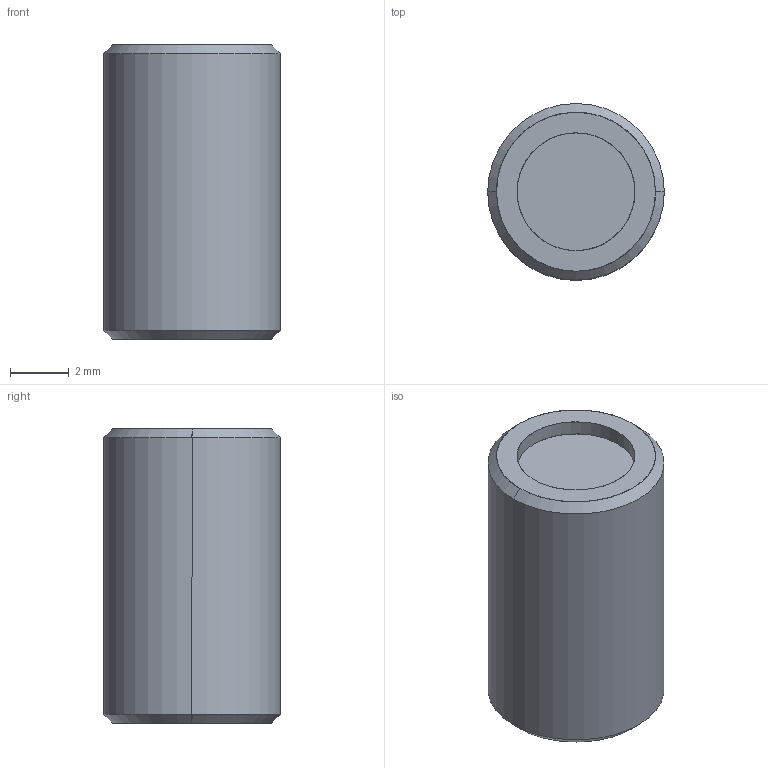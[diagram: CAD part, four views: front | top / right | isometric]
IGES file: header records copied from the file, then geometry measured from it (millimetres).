
Global section: file name: E:\UnigraphicsGraphicData\MISUMI_PRESS-PARTS\IGES\3d_mgn6_00558_r00.igs; native system: NX V5.0; preprocessor: UGS NX IGES V5.0; author: MISUMI; date: 20110105.161420; units: millimetre
Bounding box: 6 x 6 x 10 mm (x, y, z)
Surface area: 375.6 mm2 (no closed solid volume)
Topology: 0 solids, 0 shells, 22 faces, 140 edges, 140 vertices
Faces by surface type: bspline 22
